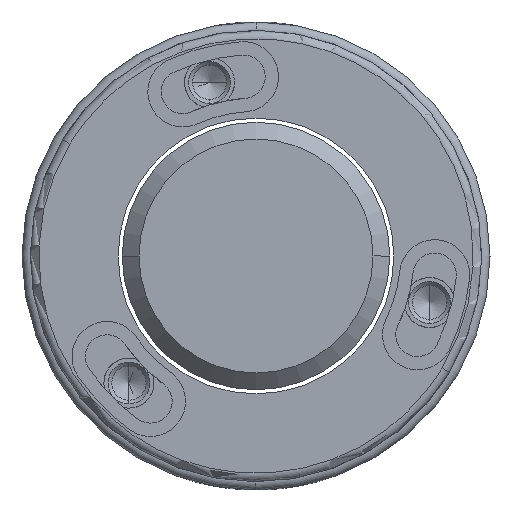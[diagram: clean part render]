
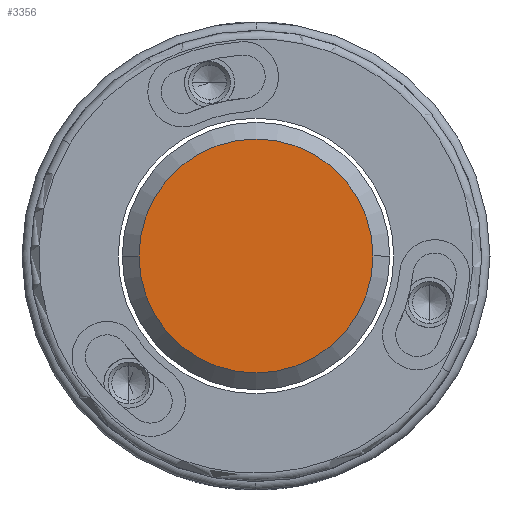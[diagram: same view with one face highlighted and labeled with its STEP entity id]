
A CAD part, left-side view. The second image highlights one B-rep face of the part: STEP entity #3356.
In plain terms, the highlighted planar face has unit normal (-1, 0, 0).
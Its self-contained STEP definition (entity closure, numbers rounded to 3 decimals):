
#620 = CARTESIAN_POINT ( 'NONE',  ( -10., 0., 0. ) ) ;
#1420 = CARTESIAN_POINT ( 'NONE',  ( -10., 0., 0. ) ) ;
#1566 = CARTESIAN_POINT ( 'NONE',  ( -10., 7., 0. ) ) ;
#1903 = DIRECTION ( 'NONE',  ( 0., -1., 0. ) ) ;
#1942 = VERTEX_POINT ( 'NONE', #5207 ) ;
#2304 = ORIENTED_EDGE ( 'NONE', *, *, #5162, .T. ) ;
#2627 = CIRCLE ( 'NONE', #5560, 7. ) ;
#2791 = CARTESIAN_POINT ( 'NONE',  ( -10., 0., 0. ) ) ;
#3052 = EDGE_LOOP ( 'NONE', ( #6401, #2304 ) ) ;
#3130 = VERTEX_POINT ( 'NONE', #1566 ) ;
#3356 = ADVANCED_FACE ( 'NONE', ( #5022 ), #3813, .T. ) ;
#3357 = CIRCLE ( 'NONE', #4150, 7. ) ;
#3813 = PLANE ( 'NONE',  #6707 ) ;
#3905 = DIRECTION ( 'NONE',  ( 0., -1., 0. ) ) ;
#4150 = AXIS2_PLACEMENT_3D ( 'NONE', #1420, #4443, #1903 ) ;
#4350 = DIRECTION ( 'NONE',  ( -1., 0., 0. ) ) ;
#4443 = DIRECTION ( 'NONE',  ( -1., 0., 0. ) ) ;
#4873 = DIRECTION ( 'NONE',  ( 0., -1., 0. ) ) ;
#4994 = EDGE_CURVE ( 'NONE', #3130, #1942, #2627, .T. ) ;
#5022 = FACE_OUTER_BOUND ( 'NONE', #3052, .T. ) ;
#5162 = EDGE_CURVE ( 'NONE', #1942, #3130, #3357, .T. ) ;
#5207 = CARTESIAN_POINT ( 'NONE',  ( -10., -7., 0. ) ) ;
#5470 = DIRECTION ( 'NONE',  ( -1., 0., 0. ) ) ;
#5560 = AXIS2_PLACEMENT_3D ( 'NONE', #620, #5470, #3905 ) ;
#6401 = ORIENTED_EDGE ( 'NONE', *, *, #4994, .T. ) ;
#6707 = AXIS2_PLACEMENT_3D ( 'NONE', #2791, #4350, #4873 ) ;
